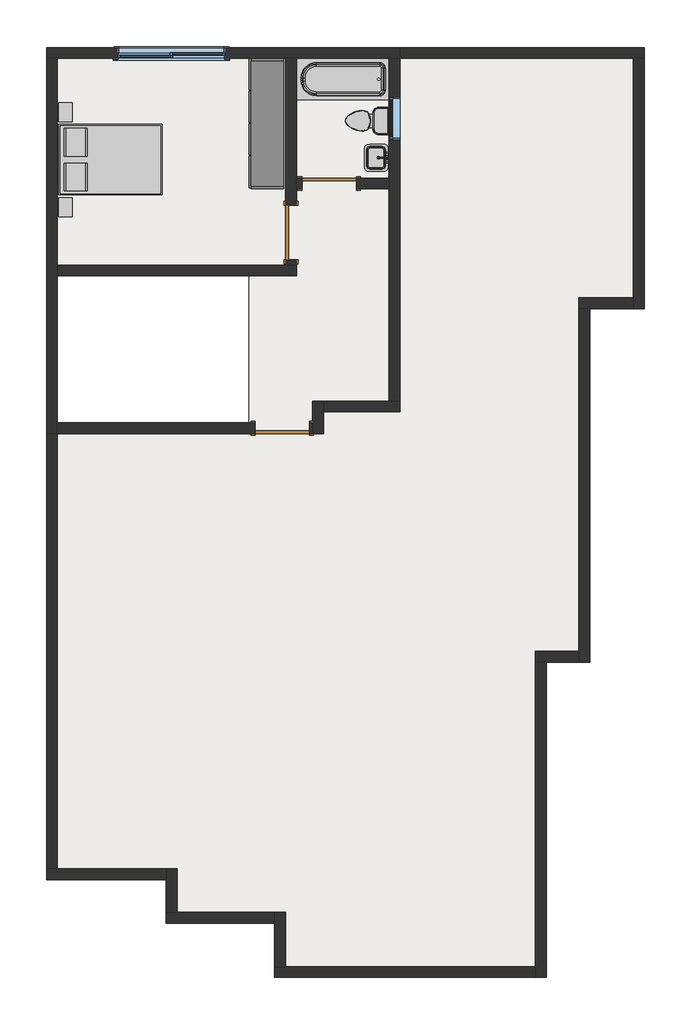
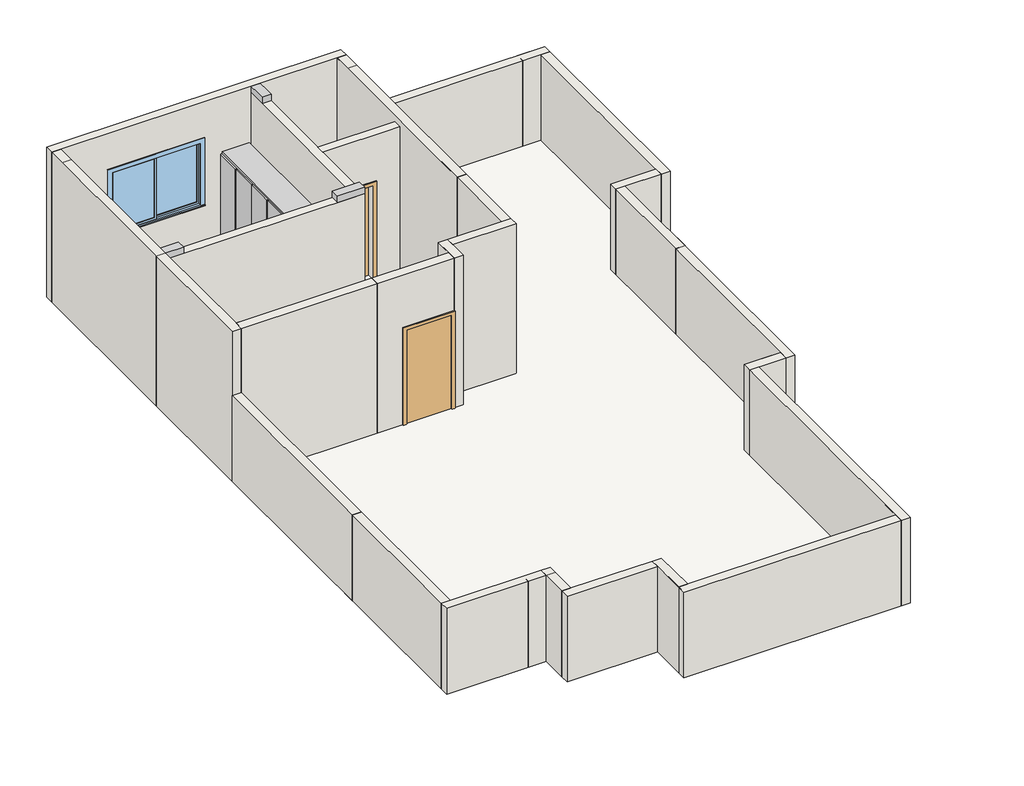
# One storey: 21 walls, 18 columns, 3 doors, 3 flow terminals, 2 furniture elements, 2 windows, 1 slab.
"""IFC4 building model written with IfcOpenShell, lengths in millimetres."""

from ifc_helpers import new_model, si_unit, frame, origin, place, context, project, spatial, polyline, outline, extrude, faceted_brep, transform, mapped, element, save
from components import m_single_flush_6cbb3975, m_sink_vanity_square_500_x_440mm_1e229b74, m_toilet_domestic_3d_m_toilet_domestic_3d_5cb52bd4, m_toilet_domestic_3d_m_toilet_domestic_3d_183bbd19, m_tub_rectangular_3d_70f1a470, furniture_2_4_x_600_x_2200_mm_2_681608c5, modern_beds_1593_1300_x_1900_af572c11, m_fixed_1d0fbe82, m_sliding_with_trim_8e0fa824

model = new_model("IFC4")

# Units and contexts
model_context = context("Model", 3, world=origin())
ifc_project = project(units=[si_unit("LENGTHUNIT", "METRE", prefix="MILLI")], contexts=[model_context])

# Site, building, storey
site = spatial("IfcSite", under=ifc_project)
building = spatial("IfcBuilding", under=site)
storey = spatial("IfcBuildingStorey", under=building, Name="السطح والملاحق", Elevation=7000.0)

# Columns
placement = place(None, origin())
element("IfcColumn", 1, ObjectType="M_Rectangular Column : 200 x 600 mm", at=placement, inside=storey, context=model_context, shape_type="SweptSolid", body=[
    extrude(outline(polyline([(-5618.9848222, 7629.7272556), (-5818.9848222, 7629.7272556), (-5818.9848222, 8229.7272556), (-5618.9848222, 8229.7272556), (-5618.9848222, 7629.7272556)])), frame((0.0, 0.0, 7000.0), z_axis=(0.0, 0.0, 1.0), x_axis=(1.0, 0.0, 0.0)), (0.0, 0.0, 1.0), 3500.0),
])
element("IfcColumn", 2, ObjectType="M_Rectangular Column : 200 x 600 mm", at=placement, inside=storey, context=model_context, shape_type="SweptSolid", body=[
    extrude(outline(polyline([(-1418.9848222, 8209.7272556), (-1218.9848222, 8209.7272556), (-1218.9848222, 7609.7272556), (-1418.9848222, 7609.7272556), (-1418.9848222, 8209.7272556)])), frame((0.0, 0.0, 7000.0), z_axis=(0.0, 0.0, 1.0), x_axis=(1.0, 0.0, 0.0)), (0.0, 0.0, 1.0), 3500.0),
])
element("IfcColumn", 3, ObjectType="M_Rectangular Column : 200 x 600 mm", at=placement, inside=storey, context=model_context, shape_type="SweptSolid", body=[
    extrude(outline(polyline([(481.0151778, 8229.7272556), (681.0151778, 8229.7272556), (681.0151778, 7629.7272556), (481.0151778, 7629.7272556), (481.0151778, 8229.7272556)])), frame((0.0, 0.0, 7000.0), z_axis=(0.0, 0.0, 1.0), x_axis=(1.0, 0.0, 0.0)), (0.0, 0.0, 1.0), 3500.0),
])
element("IfcColumn", 4, ObjectType="M_Rectangular Column : 200 x 600 mm", at=placement, inside=storey, context=model_context, shape_type="SweptSolid", body=[
    extrude(outline(polyline([(5181.0151778, 8229.7272556), (5181.0151778, 8029.7272556), (4581.0151778, 8029.7272556), (4581.0151778, 8229.7272556), (5181.0151778, 8229.7272556)])), frame((0.0, 0.0, 7000.0), z_axis=(0.0, 0.0, 1.0), x_axis=(1.0, 0.0, 0.0)), (0.0, 0.0, 1.0), 2000.0),
])
element("IfcColumn", 5, ObjectType="M_Rectangular Column : 200 x 600 mm", at=placement, inside=storey, context=model_context, shape_type="SweptSolid", body=[
    extrude(outline(polyline([(4581.0151778, 3629.7272556), (4581.0151778, 3429.7272556), (3981.0151778, 3429.7272556), (3981.0151778, 3629.7272556), (4581.0151778, 3629.7272556)])), frame((0.0, 0.0, 7000.0), z_axis=(0.0, 0.0, 1.0), x_axis=(1.0, 0.0, 0.0)), (0.0, 0.0, 1.0), 2000.0),
])
element("IfcColumn", 6, ObjectType="M_Rectangular Column : 200 x 600 mm", at=placement, inside=storey, context=model_context, shape_type="SweptSolid", body=[
    extrude(outline(polyline([(3981.0151778, 1729.7272556), (4181.0151778, 1729.7272556), (4181.0151778, 1129.7272556), (3981.0151778, 1129.7272556), (3981.0151778, 1729.7272556)])), frame((0.0, 0.0, 7000.0), z_axis=(0.0, 0.0, 1.0), x_axis=(1.0, 0.0, 0.0)), (0.0, 0.0, 1.0), 2000.0),
])
element("IfcColumn", 7, ObjectType="M_Rectangular Column : 200 x 600 mm", at=placement, inside=storey, context=model_context, shape_type="SweptSolid", body=[
    extrude(outline(polyline([(3781.0151778, -2870.2727444), (3781.0151778, -3070.2727444), (3181.0151778, -3070.2727444), (3181.0151778, -2870.2727444), (3781.0151778, -2870.2727444)])), frame((0.0, 0.0, 7000.0), z_axis=(0.0, 0.0, 1.0), x_axis=(1.0, 0.0, 0.0)), (0.0, 0.0, 1.0), 2000.0),
])
element("IfcColumn", 8, ObjectType="M_Rectangular Column : 200 x 600 mm", at=placement, inside=storey, context=model_context, shape_type="SweptSolid", body=[
    extrude(outline(polyline([(-918.9848222, 1729.7272556), (-718.9848222, 1729.7272556), (-718.9848222, 1129.7272556), (-918.9848222, 1129.7272556), (-918.9848222, 1729.7272556)])), frame((0.0, 0.0, 7000.0), z_axis=(0.0, 0.0, 1.0), x_axis=(1.0, 0.0, 0.0)), (0.0, 0.0, 1.0), 3500.0),
])
element("IfcColumn", 9, ObjectType="M_Rectangular Column : 200 x 600 mm", at=placement, inside=storey, context=model_context, shape_type="Brep", body=[
    faceted_brep([(-1218.9848222, 4229.7272556, 10500.0), (-1818.9848222, 4229.7272556, 10500.0), (-1818.9848222, 4029.7272556, 10500.0), (-1218.9848222, 4029.7272556, 10500.0), (-1218.9848222, 4229.7272556, 7000.0), (-1218.9848222, 4029.7272556, 7000.0), (-1818.9848222, 4029.7272556, 7000.0), (-1818.9848222, 4229.7272556, 7000.0), (-1218.9848222, 4229.7272556, 10350.0), (-1818.9848222, 4229.7272556, 10350.0), (-1818.9848222, 4029.7272556, 10350.0), (-1218.9848222, 4029.7272556, 10350.0)], [[[0, 1, 2, 3]], [[4, 5, 6, 7]], [[1, 0, 8, 4, 7, 9]], [[2, 1, 9, 7, 6, 10]], [[3, 2, 10, 6, 5, 11]], [[0, 3, 11, 5, 4, 8]]]),
])
element("IfcColumn", 10, ObjectType="M_Rectangular Column : 200 x 600 mm", at=placement, inside=storey, context=model_context, shape_type="SweptSolid", body=[
    extrude(outline(polyline([(-2018.9848222, 1329.7272556), (-2018.9848222, 1129.7272556), (-2618.9848222, 1129.7272556), (-2618.9848222, 1329.7272556), (-2018.9848222, 1329.7272556)])), frame((0.0, 0.0, 7000.0), z_axis=(0.0, 0.0, 1.0), x_axis=(1.0, 0.0, 0.0)), (0.0, 0.0, 1.0), 3500.0),
])
element("IfcColumn", 11, ObjectType="M_Rectangular Column : 200 x 600 mm", at=placement, inside=storey, context=model_context, shape_type="SweptSolid", body=[
    extrude(outline(polyline([(-5218.9848222, 1329.7272556), (-5218.9848222, 1129.7272556), (-5818.9848222, 1129.7272556), (-5818.9848222, 1329.7272556), (-5218.9848222, 1329.7272556)])), frame((0.0, 0.0, 7000.0), z_axis=(0.0, 0.0, 1.0), x_axis=(1.0, 0.0, 0.0)), (0.0, 0.0, 1.0), 3500.0),
])
element("IfcColumn", 12, ObjectType="M_Rectangular Column : 200 x 600 mm", at=placement, inside=storey, context=model_context, shape_type="Brep", body=[
    faceted_brep([(-5218.9848222, 4229.7272556, 10500.0), (-5618.9848222, 4229.7272556, 10500.0), (-5818.9848222, 4229.7272556, 10500.0), (-5818.9848222, 4029.7272556, 10500.0), (-5618.9848222, 4029.7272556, 10500.0), (-5218.9848222, 4029.7272556, 10500.0), (-5218.9848222, 4229.7272556, 7000.0), (-5218.9848222, 4029.7272556, 7000.0), (-5818.9848222, 4029.7272556, 7000.0), (-5818.9848222, 4229.7272556, 7000.0), (-5218.9848222, 4229.7272556, 10350.0), (-5218.9848222, 4029.7272556, 10350.0)], [[[0, 1, 2, 3, 4, 5]], [[6, 7, 8, 9]], [[2, 1, 0, 10, 6, 9]], [[3, 2, 9, 8]], [[5, 4, 3, 8, 7, 11]], [[0, 5, 11, 7, 6, 10]]]),
])
element("IfcColumn", 13, ObjectType="M_Rectangular Column : 200 x 600 mm", at=placement, inside=storey, context=model_context, shape_type="SweptSolid", body=[
    extrude(outline(polyline([(-5818.9848222, -2870.2727444), (-5618.9848222, -2870.2727444), (-5618.9848222, -3470.2727444), (-5818.9848222, -3470.2727444), (-5818.9848222, -2870.2727444)])), frame((0.0, 0.0, 7000.0), z_axis=(0.0, 0.0, 1.0), x_axis=(1.0, 0.0, 0.0)), (0.0, 0.0, 1.0), 2000.0),
])
element("IfcColumn", 14, ObjectType="M_Rectangular Column : 200 x 600 mm", at=placement, inside=storey, context=model_context, shape_type="SweptSolid", body=[
    extrude(outline(polyline([(-5218.9848222, -6870.2727444), (-5218.9848222, -7070.2727444), (-5818.9848222, -7070.2727444), (-5818.9848222, -6870.2727444), (-5218.9848222, -6870.2727444)])), frame((0.0, 0.0, 7000.0), z_axis=(0.0, 0.0, 1.0), x_axis=(1.0, 0.0, 0.0)), (0.0, 0.0, 1.0), 2000.0),
])
element("IfcColumn", 15, ObjectType="M_Rectangular Column : 200 x 600 mm", at=placement, inside=storey, context=model_context, shape_type="SweptSolid", body=[
    extrude(outline(polyline([(-3418.9848222, -6870.2727444), (-3418.9848222, -7070.2727444), (-4018.9848222, -7070.2727444), (-4018.9848222, -6870.2727444), (-3418.9848222, -6870.2727444)])), frame((0.0, 0.0, 7000.0), z_axis=(0.0, 0.0, 1.0), x_axis=(1.0, 0.0, 0.0)), (0.0, 0.0, 1.0), 2000.0),
])
element("IfcColumn", 16, ObjectType="M_Rectangular Column : 200 x 600 mm", at=placement, inside=storey, context=model_context, shape_type="SweptSolid", body=[
    extrude(outline(polyline([(-1618.9848222, -8270.2727444), (-1418.9848222, -8270.2727444), (-1418.9848222, -8870.2727444), (-1618.9848222, -8870.2727444), (-1618.9848222, -8270.2727444)])), frame((0.0, 0.0, 7000.0), z_axis=(0.0, 0.0, 1.0), x_axis=(1.0, 0.0, 0.0)), (0.0, 0.0, 1.0), 2000.0),
])
element("IfcColumn", 17, ObjectType="M_Rectangular Column : 200 x 600 mm", at=placement, inside=storey, context=model_context, shape_type="SweptSolid", body=[
    extrude(outline(polyline([(3181.0151778, -8270.2727444), (3381.0151778, -8270.2727444), (3381.0151778, -8870.2727444), (3181.0151778, -8870.2727444), (3181.0151778, -8270.2727444)])), frame((0.0, 0.0, 7000.0), z_axis=(0.0, 0.0, 1.0), x_axis=(1.0, 0.0, 0.0)), (0.0, 0.0, 1.0), 2000.0),
])
element("IfcColumn", 18, ObjectType="M_Rectangular Column : 200 x 600 mm", at=placement, inside=storey, context=model_context, shape_type="SweptSolid", body=[
    extrude(outline(polyline([(481.0151778, 4029.7272556), (681.0151778, 4029.7272556), (681.0151778, 3429.7272556), (481.0151778, 3429.7272556), (481.0151778, 4029.7272556)])), frame((0.0, 0.0, 7000.0), z_axis=(0.0, 0.0, 1.0), x_axis=(1.0, 0.0, 0.0)), (0.0, 0.0, 1.0), 3500.0),
])

# Doors
m_single_flush_shape = m_single_flush_6cbb3975(model_context)
element("IfcDoor", 19, ObjectType="M_Single-Flush : ب 1", at=placement, inside=storey, context=model_context, shape_type="MappedRepresentation", body=[
    mapped(m_single_flush_shape, transform((-1318.9848222, 4829.7272556, 7000.0), x_axis=(0.0, -1.0, 0.0), y_axis=(1.0, 0.0, 0.0), z_axis=(0.0, 0.0, 1.0))),
])
element("IfcDoor", 20, ObjectType="M_Single-Flush : ب 1", at=placement, inside=storey, context=model_context, shape_type="MappedRepresentation", body=[
    mapped(m_single_flush_shape, transform((-618.9848222, 5729.7272556, 7000.0), x_axis=(-1.0, 0.0, 0.0), y_axis=(0.0, -1.0, 0.0), z_axis=(0.0, 0.0, 1.0))),
])
element("IfcDoor", 21, ObjectType="M_Single-Flush : ب 1", at=placement, inside=storey, context=model_context, shape_type="MappedRepresentation", body=[
    mapped(m_single_flush_shape, transform((-1478.9848222, 1229.7272556, 7000.0), x_axis=(1.0, 0.0, 0.0), y_axis=(0.0, 1.0, 0.0), z_axis=(0.0, 0.0, 1.0))),
])

# Flow terminals
m_sink_vanity_square_500_x_440mm_shape = m_sink_vanity_square_500_x_440mm_1e229b74(model_context)
element("IfcFlowTerminal", 22, ObjectType="M_Sink Vanity-Square : 500 x 440mm", at=placement, inside=storey, context=model_context, shape_type="MappedRepresentation", body=[
    mapped(m_sink_vanity_square_500_x_440mm_shape, transform((288.4947767, 6217.3164962, 7000.0), x_axis=(0.0, -1.0, 0.0), y_axis=(1.0, 0.0, 0.0), z_axis=(0.0, 0.0, 1.0))),
])
m_toilet_domestic_3d_m_toilet_domestic_3d_shape = m_toilet_domestic_3d_m_toilet_domestic_3d_5cb52bd4(model_context)
m_toilet_domestic_3d_m_toilet_domestic_3d_2_shape = m_toilet_domestic_3d_m_toilet_domestic_3d_183bbd19(model_context)
element("IfcFlowTerminal", 23, ObjectType="M_Toilet-Domestic-3D : M_Toilet-Domestic-3D", at=placement, inside=storey, context=model_context, shape_type="MappedRepresentation", body=[
    mapped(m_toilet_domestic_3d_m_toilet_domestic_3d_shape, transform((-13.6808495, 6883.1232829, 7000.0), x_axis=(0.0, -1.0000000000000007, 0.0), y_axis=(1.0000000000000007, 0.0, 0.0), z_axis=(0.0, 0.0, 1.0))),
    mapped(m_toilet_domestic_3d_m_toilet_domestic_3d_2_shape, transform((-13.6808495, 6883.1232829, 7000.0), x_axis=(0.0, -1.0000000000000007, 0.0), y_axis=(1.0000000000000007, 0.0, 0.0), z_axis=(0.0, 0.0, 1.0))),
])
m_tub_rectangular_3d_shape = m_tub_rectangular_3d_70f1a470(model_context)
element("IfcFlowTerminal", 24, ObjectType="M_Tub-Rectangular-3D : M_Tub-Rectangular-3D 1.7 m", at=placement, inside=storey, context=model_context, shape_type="MappedRepresentation", body=[
    mapped(m_tub_rectangular_3d_shape, transform((-619.5877909, 8129.7272556, 7000.0), x_axis=(-1.0, 0.0, 0.0), y_axis=(0.0, -1.0, 0.0), z_axis=(0.0, 0.0, 1.0))),
])

# Furniture
furniture_2_4_x_600_x_2200_mm_2_shape = furniture_2_4_x_600_x_2200_mm_2_681608c5(model_context)
element("IfcFurniture", 25, ObjectType="Shelved_closet_Armario_o_estanteria_Simple_y_paramtrico_14422 : 2.4 x 600 x 2200 mm 2", at=placement, inside=storey, context=model_context, shape_type="MappedRepresentation", body=[
    mapped(furniture_2_4_x_600_x_2200_mm_2_shape, transform((-1404.1848222, 6679.7272556, 7000.0), x_axis=(0.0, -1.0, 0.0), y_axis=(1.0, 0.0, 0.0), z_axis=(0.0, 0.0, 1.0))),
])
modern_beds_1593_1300_x_1900_shape = modern_beds_1593_1300_x_1900_af572c11(model_context)
element("IfcFurniture", 26, ObjectType="Modern_Beds_1593 : 1300 x 1900", at=placement, inside=storey, context=model_context, shape_type="MappedRepresentation", body=[
    mapped(modern_beds_1593_1300_x_1900_shape, transform((-4876.2496685, 5829.7272556, 7000.0), x_axis=(0.0, 1.0, 0.0), y_axis=(-1.0, 0.0, 0.0), z_axis=(0.0, 0.0, 1.0))),
])

# Slab
element("IfcSlab", 27, ObjectType="Generic Floor - 150mm", at=placement, inside=storey, context=model_context, shape_type="Brep", body=[
    faceted_brep([(4981.0151778, 8029.7272556, 6850.0), (4981.0151778, 3629.7272556, 6850.0), (3981.0151778, 3629.7272556, 6850.0), (3981.0151778, 3429.7272556, 6850.0), (3981.0151778, 1729.7272556, 6850.0), (3981.0151778, 1529.7272556, 6850.0), (3981.0151778, -2870.2727444, 6850.0), (3181.0151778, -2870.2727444, 6850.0), (3181.0151778, -3070.2727444, 6850.0), (3181.0151778, -8670.2727444, 6850.0), (-1418.9848222, -8670.2727444, 6850.0), (-1418.9848222, -7670.2727444, 6850.0), (-1618.9848222, -7670.2727444, 6850.0), (-3418.9848222, -7670.2727444, 6850.0), (-3418.9848222, -6870.2727444, 6850.0), (-3618.9848222, -6870.2727444, 6850.0), (-5618.9848222, -6870.2727444, 6850.0), (-5618.9848222, -5070.2727444, 6850.0), (-5618.9848222, -4870.2727444, 6850.0), (-5618.9848222, -3070.2727444, 6850.0), (-5618.9848222, -2870.2727444, 6850.0), (-5618.9848222, 1329.7272556, 6850.0), (-2088.9848222, 1329.7272556, 6850.0), (-2088.9848222, 4029.7272556, 6850.0), (-5618.9848222, 4029.7272556, 6850.0), (-5618.9848222, 8029.7272556, 6850.0), (4981.0151778, 8029.7272556, 7000.0), (-5618.9848222, 8029.7272556, 7000.0), (-5618.9848222, 4029.7272556, 7000.0), (-2088.9848222, 4029.7272556, 7000.0), (-2088.9848222, 1329.7272556, 7000.0), (-5618.9848222, 1329.7272556, 7000.0), (-5618.9848222, -6870.2727444, 7000.0), (-3618.9848222, -6870.2727444, 7000.0), (-3418.9848222, -6870.2727444, 7000.0), (-3418.9848222, -7670.2727444, 7000.0), (-1618.9848222, -7670.2727444, 7000.0), (-1418.9848222, -7670.2727444, 7000.0), (-1418.9848222, -8670.2727444, 7000.0), (3181.0151778, -8670.2727444, 7000.0), (3181.0151778, -3070.2727444, 7000.0), (3181.0151778, -2870.2727444, 7000.0), (3981.0151778, -2870.2727444, 7000.0), (3981.0151778, 3429.7272556, 7000.0), (3981.0151778, 3629.7272556, 7000.0), (4981.0151778, 3629.7272556, 7000.0)], [[[0, 1, 2, 3, 4, 5, 6, 7, 8, 9, 10, 11, 12, 13, 14, 15, 16, 17, 18, 19, 20, 21, 22, 23, 24, 25]], [[26, 27, 28, 29, 30, 31, 32, 33, 34, 35, 36, 37, 38, 39, 40, 41, 42, 43, 44, 45]], [[1, 0, 26, 45]], [[2, 1, 45, 44]], [[6, 5, 4, 3, 2, 44, 43, 42]], [[7, 6, 42, 41]], [[9, 8, 7, 41, 40, 39]], [[10, 9, 39, 38]], [[11, 10, 38, 37]], [[13, 12, 11, 37, 36, 35]], [[14, 13, 35, 34]], [[16, 15, 14, 34, 33, 32]], [[25, 24, 28, 27]], [[0, 25, 27, 26]], [[21, 20, 19, 18, 17, 16, 32, 31]], [[22, 21, 31, 30]], [[23, 22, 30, 29]], [[24, 23, 29, 28]]]),
])

# Walls
element("IfcWall", 28, ObjectType="SF- 200mm", at=placement, inside=storey, context=model_context, shape_type="Brep", body=[
    faceted_brep([(-5818.9848222, 8029.7272556, 7000.0), (-5618.9848222, 8029.7272556, 7000.0), (-1418.9848222, 8029.7272556, 7000.0), (-1218.9848222, 8029.7272556, 7000.0), (481.0151778, 8029.7272556, 7000.0), (681.0151778, 8029.7272556, 7000.0), (681.0151778, 8029.7272556, 9000.0), (681.0151778, 8029.7272556, 10500.0), (481.0151778, 8029.7272556, 10500.0), (-1218.9848222, 8029.7272556, 10500.0), (-1418.9848222, 8029.7272556, 10500.0), (-5618.9848222, 8029.7272556, 10500.0), (-5818.9848222, 8029.7272556, 10500.0), (-4518.9848222, 8029.7272556, 9600.0), (-2518.9848222, 8029.7272556, 9600.0), (-2518.9848222, 8029.7272556, 8100.0), (-4518.9848222, 8029.7272556, 8100.0), (-5818.9848222, 8229.7272556, 7000.0), (-5818.9848222, 8229.7272556, 10500.0), (681.0151778, 8229.7272556, 10500.0), (681.0151778, 8229.7272556, 9000.0), (681.0151778, 8229.7272556, 7000.0), (-4518.9848222, 8229.7272556, 9600.0), (-4518.9848222, 8229.7272556, 8100.0), (-2518.9848222, 8229.7272556, 8100.0), (-2518.9848222, 8229.7272556, 9600.0)], [[[0, 1, 2, 3, 4, 5, 6, 7, 8, 9, 10, 11, 12], [13, 14, 15, 16]], [[17, 18, 19, 20, 21], [22, 23, 24, 25]], [[5, 4, 3, 2, 1, 0, 17, 21]], [[12, 11, 10, 9, 8, 7, 19, 18]], [[0, 12, 18, 17]], [[5, 21, 20, 19, 7, 6]], [[23, 22, 13, 16]], [[24, 23, 16, 15]], [[25, 24, 15, 14]], [[22, 25, 14, 13]]]),
])
element("IfcWall", 29, ObjectType="SF- 200mm", at=placement, inside=storey, context=model_context, shape_type="Brep", body=[
    faceted_brep([(-5618.9848222, 1129.7272556, 10500.0), (-5618.9848222, 1129.7272556, 9000.0), (-5618.9848222, 1129.7272556, 7000.0), (-5618.9848222, 1329.7272556, 7000.0), (-5618.9848222, 4029.7272556, 7000.0), (-5618.9848222, 4229.7272556, 7000.0), (-5618.9848222, 8029.7272556, 7000.0), (-5618.9848222, 8029.7272556, 10500.0), (-5618.9848222, 4229.7272556, 10500.0), (-5618.9848222, 4029.7272556, 10500.0), (-5618.9848222, 1329.7272556, 10500.0), (-5818.9848222, 1129.7272556, 7000.0), (-5818.9848222, 1129.7272556, 9000.0), (-5818.9848222, 1129.7272556, 10500.0), (-5818.9848222, 8029.7272556, 10500.0), (-5818.9848222, 8029.7272556, 7000.0)], [[[0, 1, 2, 3, 4, 5, 6, 7, 8, 9, 10]], [[11, 12, 13, 14, 15]], [[6, 5, 4, 3, 2, 11, 15]], [[0, 10, 9, 8, 7, 14, 13]], [[7, 6, 15, 14]], [[0, 13, 12, 11, 2, 1]]]),
])
element("IfcWall", 30, ObjectType="SF- 200mm", at=placement, inside=storey, context=model_context, shape_type="Brep", body=[
    faceted_brep([(-5618.9848222, 4029.7272556, 7000.0), (-1218.9848222, 4029.7272556, 7000.0), (-1218.9848222, 4029.7272556, 10350.0), (-5618.9848222, 4029.7272556, 10350.0), (-1218.9848222, 4229.7272556, 7000.0), (-1418.9848222, 4229.7272556, 7000.0), (-5618.9848222, 4229.7272556, 7000.0), (-5618.9848222, 4229.7272556, 10350.0), (-1418.9848222, 4229.7272556, 10350.0), (-1218.9848222, 4229.7272556, 10350.0)], [[[0, 1, 2, 3]], [[4, 5, 6, 7, 8, 9]], [[1, 0, 6, 5, 4]], [[6, 0, 3, 7]], [[1, 4, 9, 2]], [[3, 2, 9, 8, 7]]]),
])
element("IfcWall", 31, ObjectType="SF- 200mm", at=placement, inside=storey, context=model_context, shape_type="SweptSolid", body=[
    extrude(outline(polyline([(9200.0, -978.9848222), (7000.0, -978.9848222), (7000.0, -918.9848222), (10500.0, -918.9848222), (10500.0, -5618.9848222), (7000.0, -5618.9848222), (7000.0, -1978.9848222), (9200.0, -1978.9848222), (9200.0, -978.9848222)])), frame((0.0, 1129.7272556, 0.0), z_axis=(0.0, 1.0, 0.0), x_axis=(0.0, 0.0, 1.0)), (0.0, 0.0, 1.0), 200.0),
])
element("IfcWall", 32, ObjectType="SF- 200mm", at=placement, inside=storey, context=model_context, shape_type="Brep", body=[
    faceted_brep([(-918.9848222, 1729.7272556, 7000.0), (-918.9848222, 1329.7272556, 7000.0), (-918.9848222, 1129.7272556, 7000.0), (-918.9848222, 1129.7272556, 10500.0), (-918.9848222, 1329.7272556, 10500.0), (-918.9848222, 1729.7272556, 10500.0), (-718.9848222, 1729.7272556, 7000.0), (-718.9848222, 1729.7272556, 10500.0), (-718.9848222, 1529.7272556, 10500.0), (-718.9848222, 1129.7272556, 10500.0), (-718.9848222, 1129.7272556, 7000.0), (-718.9848222, 1529.7272556, 7000.0)], [[[0, 1, 2, 3, 4, 5]], [[6, 7, 8, 9, 10, 11]], [[2, 1, 0, 6, 11, 10]], [[5, 4, 3, 9, 8, 7]], [[0, 5, 7, 6]], [[3, 2, 10, 9]]]),
])
element("IfcWall", 33, ObjectType="SF- 200mm", at=placement, inside=storey, context=model_context, shape_type="Brep", body=[
    faceted_brep([(-718.9848222, 1529.7272556, 7000.0), (681.0151778, 1529.7272556, 7000.0), (681.0151778, 1529.7272556, 10500.0), (-718.9848222, 1529.7272556, 10500.0), (-718.9848222, 1729.7272556, 7000.0), (-718.9848222, 1729.7272556, 10500.0), (481.0151778, 1729.7272556, 10500.0), (681.0151778, 1729.7272556, 10500.0), (681.0151778, 1729.7272556, 7000.0), (481.0151778, 1729.7272556, 7000.0)], [[[0, 1, 2, 3]], [[4, 5, 6, 7, 8, 9]], [[1, 0, 4, 9, 8]], [[3, 2, 7, 6, 5]], [[0, 3, 5, 4]], [[2, 1, 8, 7]]]),
])
element("IfcWall", 34, ObjectType="SF- 200mm", at=placement, inside=storey, context=model_context, shape_type="Brep", body=[
    faceted_brep([(681.0151778, 1729.7272556, 7000.0), (681.0151778, 8029.7272556, 7000.0), (681.0151778, 8029.7272556, 10500.0), (681.0151778, 1729.7272556, 10500.0), (681.0151778, 6529.7272556, 8100.0), (681.0151778, 6529.7272556, 8900.0), (681.0151778, 7329.7272556, 8900.0), (681.0151778, 7329.7272556, 8100.0), (481.0151778, 1729.7272556, 7000.0), (481.0151778, 1729.7272556, 10500.0), (481.0151778, 5629.7272556, 10500.0), (481.0151778, 5829.7272556, 10500.0), (481.0151778, 8029.7272556, 10500.0), (481.0151778, 8029.7272556, 7000.0), (481.0151778, 5829.7272556, 7000.0), (481.0151778, 5629.7272556, 7000.0), (481.0151778, 6529.7272556, 8100.0), (481.0151778, 7329.7272556, 8100.0), (481.0151778, 7329.7272556, 8900.0), (481.0151778, 6529.7272556, 8900.0)], [[[0, 1, 2, 3], [4, 5, 6, 7]], [[8, 9, 10, 11, 12, 13, 14, 15], [16, 17, 18, 19]], [[1, 0, 8, 15, 14, 13]], [[3, 2, 12, 11, 10, 9]], [[0, 3, 9, 8]], [[1, 13, 12, 2]], [[5, 4, 16, 19]], [[6, 5, 19, 18]], [[7, 6, 18, 17]], [[4, 7, 17, 16]]]),
])
element("IfcWall", 35, ObjectType="SF- 200mm", at=placement, inside=storey, context=model_context, shape_type="Brep", body=[
    faceted_brep([(-1218.9848222, 4329.7272556, 7000.0), (-1218.9848222, 4329.7272556, 9200.0), (-1218.9848222, 5329.7272556, 9200.0), (-1218.9848222, 5329.7272556, 7000.0), (-1218.9848222, 5629.7272556, 7000.0), (-1218.9848222, 5829.7272556, 7000.0), (-1218.9848222, 8029.7272556, 7000.0), (-1218.9848222, 8029.7272556, 10350.0), (-1218.9848222, 4229.7272556, 10350.0), (-1218.9848222, 4229.7272556, 7000.0), (-1418.9848222, 4329.7272556, 9200.0), (-1418.9848222, 4329.7272556, 7000.0), (-1418.9848222, 4229.7272556, 7000.0), (-1418.9848222, 4229.7272556, 10350.0), (-1418.9848222, 8029.7272556, 10350.0), (-1418.9848222, 8029.7272556, 7000.0), (-1418.9848222, 5329.7272556, 7000.0), (-1418.9848222, 5329.7272556, 9200.0)], [[[0, 1, 2, 3, 4, 5, 6, 7, 8, 9]], [[10, 11, 12, 13, 14, 15, 16, 17]], [[15, 6, 5, 4, 3, 16]], [[9, 12, 11, 0]], [[6, 15, 14, 7]], [[12, 9, 8, 13]], [[1, 0, 11, 10]], [[2, 1, 10, 17]], [[3, 2, 17, 16]], [[8, 7, 14, 13]]]),
])
element("IfcWall", 36, ObjectType="SF- 200mm", at=placement, inside=storey, context=model_context, shape_type="SweptSolid", body=[
    extrude(outline(polyline([(7000.0, -1118.9848222), (9200.0, -1118.9848222), (9200.0, -118.9848222), (7000.0, -118.9848222), (7000.0, 481.0151778), (10350.0, 481.0151778), (10350.0, -1218.9848222), (7000.0, -1218.9848222), (7000.0, -1118.9848222)])), frame((0.0, 5629.7272556, 0.0), z_axis=(0.0, 1.0, 0.0), x_axis=(0.0, 0.0, 1.0)), (0.0, 0.0, 1.0), 200.0),
])
element("IfcWall", 37, ObjectType="SF- 200mm", at=placement, inside=storey, context=model_context, shape_type="Brep", body=[
    faceted_brep([(681.0151778, 8029.7272556, 7000.0), (4981.0151778, 8029.7272556, 7000.0), (5181.0151778, 8029.7272556, 7000.0), (5181.0151778, 8029.7272556, 9000.0), (4981.0151778, 8029.7272556, 9000.0), (681.0151778, 8029.7272556, 9000.0), (681.0151778, 8229.7272556, 7000.0), (681.0151778, 8229.7272556, 9000.0), (5181.0151778, 8229.7272556, 9000.0), (5181.0151778, 8229.7272556, 7000.0)], [[[0, 1, 2, 3, 4, 5]], [[6, 7, 8, 9]], [[2, 1, 0, 6, 9]], [[5, 4, 3, 8, 7]], [[0, 5, 7, 6]], [[3, 2, 9, 8]]]),
])
element("IfcWall", 38, ObjectType="SF- 200mm", at=placement, inside=storey, context=model_context, shape_type="Brep", body=[
    faceted_brep([(4981.0151778, 8029.7272556, 7000.0), (4981.0151778, 3629.7272556, 7000.0), (4981.0151778, 3429.7272556, 7000.0), (4981.0151778, 3429.7272556, 9000.0), (4981.0151778, 3629.7272556, 9000.0), (4981.0151778, 8029.7272556, 9000.0), (5181.0151778, 8029.7272556, 7000.0), (5181.0151778, 8029.7272556, 9000.0), (5181.0151778, 3429.7272556, 9000.0), (5181.0151778, 3429.7272556, 7000.0)], [[[0, 1, 2, 3, 4, 5]], [[6, 7, 8, 9]], [[2, 1, 0, 6, 9]], [[5, 4, 3, 8, 7]], [[0, 5, 7, 6]], [[3, 2, 9, 8]]]),
])
element("IfcWall", 39, ObjectType="SF- 200mm", at=placement, inside=storey, context=model_context, shape_type="Brep", body=[
    faceted_brep([(4981.0151778, 3629.7272556, 7000.0), (3981.0151778, 3629.7272556, 7000.0), (3981.0151778, 3629.7272556, 9000.0), (4981.0151778, 3629.7272556, 9000.0), (4981.0151778, 3429.7272556, 7000.0), (4981.0151778, 3429.7272556, 9000.0), (4181.0151778, 3429.7272556, 9000.0), (3981.0151778, 3429.7272556, 9000.0), (3981.0151778, 3429.7272556, 7000.0), (4181.0151778, 3429.7272556, 7000.0)], [[[0, 1, 2, 3]], [[4, 5, 6, 7, 8, 9]], [[1, 0, 4, 9, 8]], [[3, 2, 7, 6, 5]], [[0, 3, 5, 4]], [[2, 1, 8, 7]]]),
])
element("IfcWall", 40, ObjectType="SF- 200mm", at=placement, inside=storey, context=model_context, shape_type="Brep", body=[
    faceted_brep([(3981.0151778, 3429.7272556, 7000.0), (3981.0151778, -2870.2727444, 7000.0), (3981.0151778, -3070.2727444, 7000.0), (3981.0151778, -3070.2727444, 9000.0), (3981.0151778, -2870.2727444, 9000.0), (3981.0151778, 3429.7272556, 9000.0), (4181.0151778, 3429.7272556, 7000.0), (4181.0151778, 3429.7272556, 9000.0), (4181.0151778, -3070.2727444, 9000.0), (4181.0151778, -3070.2727444, 7000.0)], [[[0, 1, 2, 3, 4, 5]], [[6, 7, 8, 9]], [[2, 1, 0, 6, 9]], [[5, 4, 3, 8, 7]], [[0, 5, 7, 6]], [[3, 2, 9, 8]]]),
])
element("IfcWall", 41, ObjectType="SF- 200mm", at=placement, inside=storey, context=model_context, shape_type="Brep", body=[
    faceted_brep([(3981.0151778, -2870.2727444, 7000.0), (3181.0151778, -2870.2727444, 7000.0), (3181.0151778, -2870.2727444, 9000.0), (3981.0151778, -2870.2727444, 9000.0), (3981.0151778, -3070.2727444, 7000.0), (3981.0151778, -3070.2727444, 9000.0), (3381.0151778, -3070.2727444, 9000.0), (3181.0151778, -3070.2727444, 9000.0), (3181.0151778, -3070.2727444, 7000.0), (3381.0151778, -3070.2727444, 7000.0)], [[[0, 1, 2, 3]], [[4, 5, 6, 7, 8, 9]], [[1, 0, 4, 9, 8]], [[3, 2, 7, 6, 5]], [[0, 3, 5, 4]], [[2, 1, 8, 7]]]),
])
element("IfcWall", 42, ObjectType="SF- 200mm", at=placement, inside=storey, context=model_context, shape_type="Brep", body=[
    faceted_brep([(3381.0151778, -8870.2727444, 7000.0), (3381.0151778, -3070.2727444, 7000.0), (3381.0151778, -3070.2727444, 9000.0), (3381.0151778, -8870.2727444, 9000.0), (3181.0151778, -8870.2727444, 7000.0), (3181.0151778, -8870.2727444, 9000.0), (3181.0151778, -8670.2727444, 9000.0), (3181.0151778, -3070.2727444, 9000.0), (3181.0151778, -3070.2727444, 7000.0), (3181.0151778, -8670.2727444, 7000.0)], [[[0, 1, 2, 3]], [[4, 5, 6, 7, 8, 9]], [[1, 0, 4, 9, 8]], [[3, 2, 7, 6, 5]], [[2, 1, 8, 7]], [[0, 3, 5, 4]]]),
])
element("IfcWall", 43, ObjectType="SF- 200mm", at=placement, inside=storey, context=model_context, shape_type="Brep", body=[
    faceted_brep([(-1618.9848222, -8870.2727444, 7000.0), (3181.0151778, -8870.2727444, 7000.0), (3181.0151778, -8870.2727444, 9000.0), (-1618.9848222, -8870.2727444, 9000.0), (-1618.9848222, -8670.2727444, 7000.0), (-1618.9848222, -8670.2727444, 9000.0), (-1418.9848222, -8670.2727444, 9000.0), (3181.0151778, -8670.2727444, 9000.0), (3181.0151778, -8670.2727444, 7000.0), (-1418.9848222, -8670.2727444, 7000.0)], [[[0, 1, 2, 3]], [[4, 5, 6, 7, 8, 9]], [[1, 0, 4, 9, 8]], [[3, 2, 7, 6, 5]], [[2, 1, 8, 7]], [[0, 3, 5, 4]]]),
])
element("IfcWall", 44, ObjectType="SF- 200mm", at=placement, inside=storey, context=model_context, shape_type="Brep", body=[
    faceted_brep([(-1618.9848222, -7670.2727444, 7000.0), (-1618.9848222, -7870.2727444, 7000.0), (-1618.9848222, -8670.2727444, 7000.0), (-1618.9848222, -8670.2727444, 9000.0), (-1618.9848222, -7870.2727444, 9000.0), (-1618.9848222, -7670.2727444, 9000.0), (-1418.9848222, -7670.2727444, 7000.0), (-1418.9848222, -7670.2727444, 9000.0), (-1418.9848222, -8670.2727444, 9000.0), (-1418.9848222, -8670.2727444, 7000.0)], [[[0, 1, 2, 3, 4, 5]], [[6, 7, 8, 9]], [[2, 1, 0, 6, 9]], [[5, 4, 3, 8, 7]], [[3, 2, 9, 8]], [[0, 5, 7, 6]]]),
])
element("IfcWall", 45, ObjectType="SF- 200mm", at=placement, inside=storey, context=model_context, shape_type="Brep", body=[
    faceted_brep([(-3618.9848222, -7870.2727444, 7000.0), (-1618.9848222, -7870.2727444, 7000.0), (-1618.9848222, -7870.2727444, 9000.0), (-3618.9848222, -7870.2727444, 9000.0), (-3618.9848222, -7670.2727444, 7000.0), (-3618.9848222, -7670.2727444, 9000.0), (-3418.9848222, -7670.2727444, 9000.0), (-1618.9848222, -7670.2727444, 9000.0), (-1618.9848222, -7670.2727444, 7000.0), (-3418.9848222, -7670.2727444, 7000.0)], [[[0, 1, 2, 3]], [[4, 5, 6, 7, 8, 9]], [[1, 0, 4, 9, 8]], [[3, 2, 7, 6, 5]], [[2, 1, 8, 7]], [[0, 3, 5, 4]]]),
])
element("IfcWall", 46, ObjectType="SF- 200mm", at=placement, inside=storey, context=model_context, shape_type="Brep", body=[
    faceted_brep([(-3618.9848222, -6870.2727444, 7000.0), (-3618.9848222, -7070.2727444, 7000.0), (-3618.9848222, -7670.2727444, 7000.0), (-3618.9848222, -7670.2727444, 9000.0), (-3618.9848222, -7070.2727444, 9000.0), (-3618.9848222, -6870.2727444, 9000.0), (-3418.9848222, -6870.2727444, 7000.0), (-3418.9848222, -6870.2727444, 9000.0), (-3418.9848222, -7670.2727444, 9000.0), (-3418.9848222, -7670.2727444, 7000.0)], [[[0, 1, 2, 3, 4, 5]], [[6, 7, 8, 9]], [[2, 1, 0, 6, 9]], [[5, 4, 3, 8, 7]], [[3, 2, 9, 8]], [[0, 5, 7, 6]]]),
])
element("IfcWall", 47, ObjectType="SF- 200mm", at=placement, inside=storey, context=model_context, shape_type="Brep", body=[
    faceted_brep([(-5818.9848222, -7070.2727444, 7000.0), (-3618.9848222, -7070.2727444, 7000.0), (-3618.9848222, -7070.2727444, 9000.0), (-5818.9848222, -7070.2727444, 9000.0), (-5818.9848222, -6870.2727444, 7000.0), (-5818.9848222, -6870.2727444, 9000.0), (-5618.9848222, -6870.2727444, 9000.0), (-3618.9848222, -6870.2727444, 9000.0), (-3618.9848222, -6870.2727444, 7000.0), (-5618.9848222, -6870.2727444, 7000.0)], [[[0, 1, 2, 3]], [[4, 5, 6, 7, 8, 9]], [[1, 0, 4, 9, 8]], [[3, 2, 7, 6, 5]], [[2, 1, 8, 7]], [[0, 3, 5, 4]]]),
])
element("IfcWall", 48, ObjectType="SF- 200mm", at=placement, inside=storey, context=model_context, shape_type="SweptSolid", body=[
    extrude(outline(polyline([(-5818.9848222, -6870.2727444), (-5818.9848222, 1129.7272556), (-5618.9848222, 1129.7272556), (-5618.9848222, -6870.2727444), (-5818.9848222, -6870.2727444)])), frame((0.0, 0.0, 7000.0), z_axis=(0.0, 0.0, 1.0), x_axis=(1.0, 0.0, 0.0)), (0.0, 0.0, 1.0), 2000.0),
])

# Windows
m_fixed_shape = m_fixed_1d0fbe82(model_context)
element("IfcWindow", 49, ObjectType="M_Fixed : ش 2", at=placement, inside=storey, context=model_context, shape_type="MappedRepresentation", body=[
    mapped(m_fixed_shape, transform((594.0151778, 6929.7272556, 6600.0), x_axis=(0.0, 1.0, 0.0), y_axis=(-1.0, 0.0, 0.0), z_axis=(0.0, 0.0, 1.0))),
])
m_sliding_with_trim_shape = m_sliding_with_trim_8e0fa824(model_context)
element("IfcWindow", 50, ObjectType="M_Sliding with Trim : ش 1", at=placement, inside=storey, context=model_context, shape_type="MappedRepresentation", body=[
    mapped(m_sliding_with_trim_shape, transform((-3518.9848222, 8129.7272556, 7185.0), x_axis=(-1.0, 0.0, 0.0), y_axis=(0.0, -1.0, 0.0), z_axis=(0.0, 0.0, 1.0))),
])

save(model, "model.ifc")
